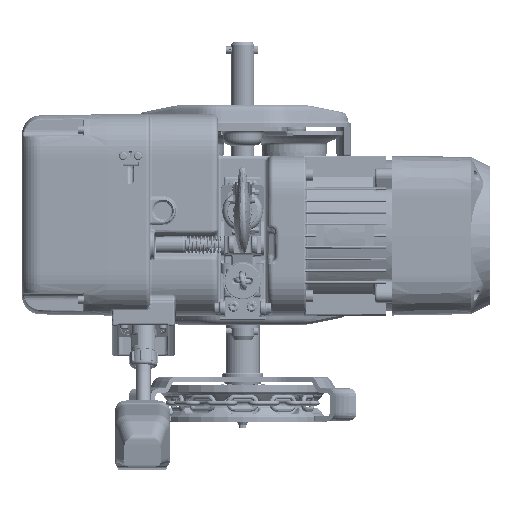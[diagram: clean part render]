
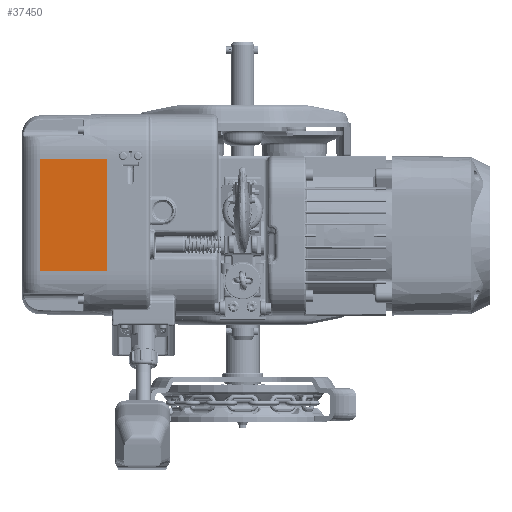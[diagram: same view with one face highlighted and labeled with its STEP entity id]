
A CAD part, front view. The second image highlights one B-rep face of the part: STEP entity #37450.
In plain terms, the highlighted planar face has unit normal (-0.018, -1, 0) as drawn and (0, -1, 0.017) by its records, which use the part's own axes.
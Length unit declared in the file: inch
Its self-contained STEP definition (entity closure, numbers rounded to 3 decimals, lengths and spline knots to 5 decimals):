
#8512 = CARTESIAN_POINT ( 'NONE',  ( 0., -3.71012, 2.84839 ) ) ;
#10055 = DIRECTION ( 'NONE',  ( -1., 0., 0. ) ) ;
#17863 = VERTEX_POINT ( 'NONE', #197441 ) ;
#21693 = VECTOR ( 'NONE', #45602, 39.37008 ) ;
#23293 = CARTESIAN_POINT ( 'NONE',  ( -2.41308, -3.75984, 0. ) ) ;
#34445 = LINE ( 'NONE', #113002, #128164 ) ;
#37450 = ADVANCED_FACE ( 'NONE', ( #250530 ), #88358, .T. ) ;
#44662 = EDGE_CURVE ( 'NONE', #244428, #17863, #201906, .T. ) ;
#45602 = DIRECTION ( 'NONE',  ( 0., -0.017, -1. ) ) ;
#52754 = LINE ( 'NONE', #295034, #183824 ) ;
#78470 = CARTESIAN_POINT ( 'NONE',  ( 2.41308, -3.71012, 2.84839 ) ) ;
#82572 = DIRECTION ( 'NONE',  ( -1., 0., 0. ) ) ;
#83274 = EDGE_CURVE ( 'NONE', #244428, #274449, #160541, .T. ) ;
#83579 = VECTOR ( 'NONE', #10055, 39.37008 ) ;
#88358 = PLANE ( 'NONE',  #195830 ) ;
#108429 = ORIENTED_EDGE ( 'NONE', *, *, #248776, .F. ) ;
#110090 = ORIENTED_EDGE ( 'NONE', *, *, #83274, .F. ) ;
#113002 = CARTESIAN_POINT ( 'NONE',  ( -2.41308, -3.75984, 0. ) ) ;
#116632 = DIRECTION ( 'NONE',  ( 0., -1., 0.017 ) ) ;
#121408 = EDGE_LOOP ( 'NONE', ( #110090, #213579, #243268, #108429 ) ) ;
#128164 = VECTOR ( 'NONE', #256193, 39.37008 ) ;
#160541 = LINE ( 'NONE', #284777, #21693 ) ;
#165405 = DIRECTION ( 'NONE',  ( 0., -0.017, -1. ) ) ;
#183824 = VECTOR ( 'NONE', #82572, 39.37008 ) ;
#189010 = CARTESIAN_POINT ( 'NONE',  ( 0., -3.75984, 0. ) ) ;
#195830 = AXIS2_PLACEMENT_3D ( 'NONE', #189010, #116632, #165405 ) ;
#197441 = CARTESIAN_POINT ( 'NONE',  ( -2.41308, -3.71012, 2.84839 ) ) ;
#201906 = LINE ( 'NONE', #8512, #83579 ) ;
#213579 = ORIENTED_EDGE ( 'NONE', *, *, #44662, .T. ) ;
#234200 = CARTESIAN_POINT ( 'NONE',  ( 2.41308, -3.75984, 0. ) ) ;
#243268 = ORIENTED_EDGE ( 'NONE', *, *, #300000, .T. ) ;
#244428 = VERTEX_POINT ( 'NONE', #78470 ) ;
#248776 = EDGE_CURVE ( 'NONE', #274449, #289613, #52754, .T. ) ;
#250530 = FACE_OUTER_BOUND ( 'NONE', #121408, .T. ) ;
#256193 = DIRECTION ( 'NONE',  ( 0., -0.017, -1. ) ) ;
#274449 = VERTEX_POINT ( 'NONE', #234200 ) ;
#284777 = CARTESIAN_POINT ( 'NONE',  ( 2.41308, -3.75984, 0. ) ) ;
#289613 = VERTEX_POINT ( 'NONE', #23293 ) ;
#295034 = CARTESIAN_POINT ( 'NONE',  ( 0., -3.75984, 0. ) ) ;
#300000 = EDGE_CURVE ( 'NONE', #17863, #289613, #34445, .T. ) ;
